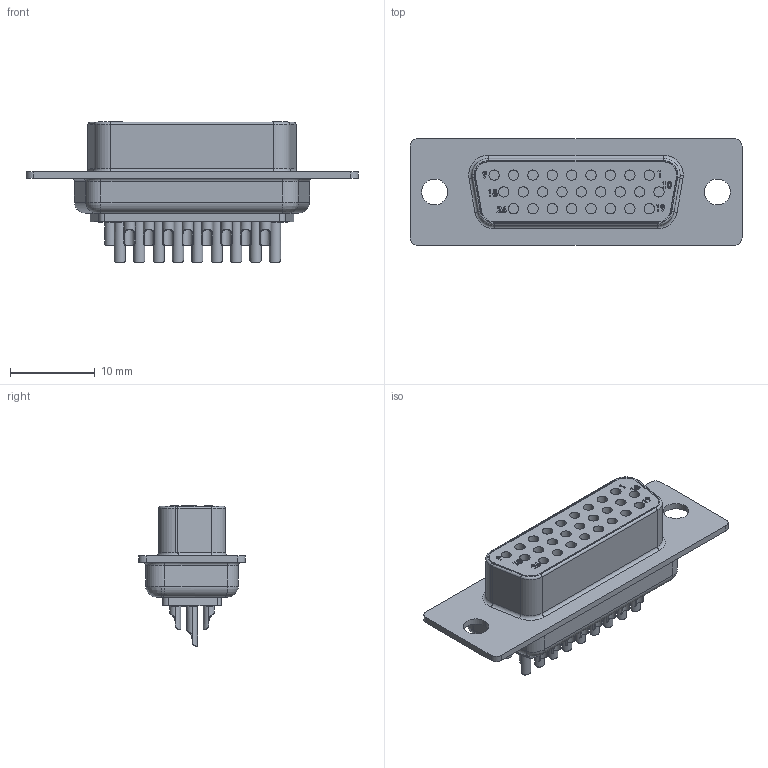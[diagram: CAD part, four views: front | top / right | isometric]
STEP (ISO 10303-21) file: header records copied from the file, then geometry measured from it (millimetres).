
FILE_DESCRIPTION(('FreeCAD Model'),'2;1');
FILE_NAME('C:/Users/Metaltex-99/Desktop/DBAF-26.stp', '2020-12-23T08:59:53',('Engenharia Metaltex'),('Metaltex'), 'Open CASCADE STEP processor 7.3','FreeCAD','Unknown');
FILE_SCHEMA(('AUTOMOTIVE_DESIGN { 1 0 10303 214 1 1 1 1 }'));
Products named in the file (1): DBAF-26
Bounding box: 39.14 x 12.6 x 16.54 mm (x, y, z)
Volume: 2597.2 mm3; surface area: 3473.1 mm2
Topology: 1 solids, 1 shells, 733 faces, 1788 edges, 1146 vertices
Faces by surface type: cylinder 302, plane 299, bspline 112, torus 15, revolution 5
Entity records: 64728 total; most frequent: CARTESIAN_POINT 31236, DIRECTION 5394, ORIENTED_EDGE 3576, PCURVE 3576, DEFINITIONAL_REPRESENTATION 3576, LINE 3232, VECTOR 3232, EDGE_CURVE 1788
